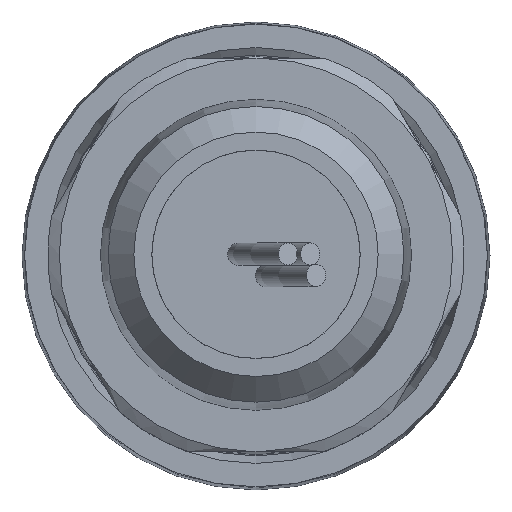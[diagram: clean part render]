
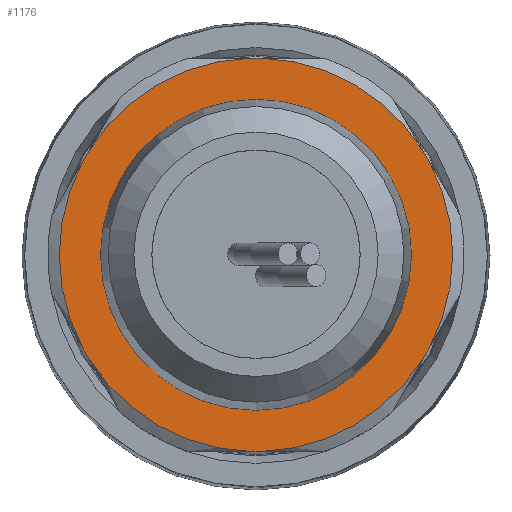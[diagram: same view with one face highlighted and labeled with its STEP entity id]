
A CAD part, top view. The second image highlights one B-rep face of the part: STEP entity #1176.
In plain terms, the highlighted planar face has unit normal (0, 0, 1).
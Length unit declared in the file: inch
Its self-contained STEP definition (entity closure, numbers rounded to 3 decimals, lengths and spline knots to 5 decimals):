
#1 = DIRECTION ( 'NONE',  ( 1., 0., 0. ) ) ;
#15 = ORIENTED_EDGE ( 'NONE', *, *, #1158, .T. ) ;
#56 = VERTEX_POINT ( 'NONE', #1165 ) ;
#88 = ORIENTED_EDGE ( 'NONE', *, *, #288, .F. ) ;
#91 = CIRCLE ( 'NONE', #1272, 0.53125 ) ;
#95 = AXIS2_PLACEMENT_3D ( 'NONE', #526, #1363, #1246 ) ;
#129 = DIRECTION ( 'NONE',  ( 0., 0., -1. ) ) ;
#153 = EDGE_CURVE ( 'NONE', #2113, #1534, #2115, .T. ) ;
#166 = CARTESIAN_POINT ( 'NONE',  ( 0.46801, -0.25139, 3.03832 ) ) ;
#173 = LINE ( 'NONE', #1549, #1653 ) ;
#193 = LINE ( 'NONE', #366, #851 ) ;
#214 = EDGE_CURVE ( 'NONE', #56, #773, #1038, .T. ) ;
#229 = ORIENTED_EDGE ( 'NONE', *, *, #971, .T. ) ;
#233 = CARTESIAN_POINT ( 'NONE',  ( -0.0163, -0.531, 3.03832 ) ) ;
#249 = CARTESIAN_POINT ( 'NONE',  ( 0., 0.42, 3.03832 ) ) ;
#288 = EDGE_CURVE ( 'NONE', #1709, #996, #91, .T. ) ;
#289 = LINE ( 'NONE', #1319, #1472 ) ;
#298 = CARTESIAN_POINT ( 'NONE',  ( -0.0163, 0.531, 3.03832 ) ) ;
#309 = ORIENTED_EDGE ( 'NONE', *, *, #945, .F. ) ;
#322 = CARTESIAN_POINT ( 'NONE',  ( -0.61315, 0., 3.03832 ) ) ;
#325 = CARTESIAN_POINT ( 'NONE',  ( 0.45171, -0.27961, 3.03832 ) ) ;
#346 = FACE_BOUND ( 'NONE', #1423, .T. ) ;
#366 = CARTESIAN_POINT ( 'NONE',  ( -0.30657, 0.531, 3.03832 ) ) ;
#387 = EDGE_LOOP ( 'NONE', ( #2105, #1339, #229, #454, #15, #88, #1592, #1815, #1937, #309, #625, #1746 ) ) ;
#389 = DIRECTION ( 'NONE',  ( 0., 1., 0. ) ) ;
#401 = EDGE_CURVE ( 'NONE', #447, #1910, #1249, .T. ) ;
#412 = CIRCLE ( 'NONE', #95, 0.53125 ) ;
#424 = VERTEX_POINT ( 'NONE', #1579 ) ;
#447 = VERTEX_POINT ( 'NONE', #753 ) ;
#454 = ORIENTED_EDGE ( 'NONE', *, *, #401, .F. ) ;
#482 = DIRECTION ( 'NONE',  ( 0., 1., 0. ) ) ;
#500 = CARTESIAN_POINT ( 'NONE',  ( 0., 0., 3.03832 ) ) ;
#516 = CARTESIAN_POINT ( 'NONE',  ( 0., 0., 3.03832 ) ) ;
#526 = CARTESIAN_POINT ( 'NONE',  ( 0., 0., 3.03832 ) ) ;
#539 = CARTESIAN_POINT ( 'NONE',  ( 0.46801, 0.25139, 3.03832 ) ) ;
#548 = DIRECTION ( 'NONE',  ( 0., 1., 0. ) ) ;
#567 = VERTEX_POINT ( 'NONE', #1174 ) ;
#569 = CARTESIAN_POINT ( 'NONE',  ( 0., 0., 3.03832 ) ) ;
#581 = CARTESIAN_POINT ( 'NONE',  ( -0.45171, 0.27961, 3.03832 ) ) ;
#625 = ORIENTED_EDGE ( 'NONE', *, *, #1602, .T. ) ;
#652 = CARTESIAN_POINT ( 'NONE',  ( -0.30657, -0.531, 3.03832 ) ) ;
#654 = DIRECTION ( 'NONE',  ( 0., 0., -1. ) ) ;
#676 = AXIS2_PLACEMENT_3D ( 'NONE', #1098, #1263, #2083 ) ;
#707 = PLANE ( 'NONE',  #1303 ) ;
#748 = EDGE_CURVE ( 'NONE', #1440, #1534, #412, .T. ) ;
#753 = CARTESIAN_POINT ( 'NONE',  ( 0.0163, 0.531, 3.03832 ) ) ;
#756 = AXIS2_PLACEMENT_3D ( 'NONE', #569, #795, #389 ) ;
#758 = CIRCLE ( 'NONE', #676, 0.53125 ) ;
#773 = VERTEX_POINT ( 'NONE', #2051 ) ;
#777 = VECTOR ( 'NONE', #2179, 39.37008 ) ;
#795 = DIRECTION ( 'NONE',  ( 0., 0., -1. ) ) ;
#801 = DIRECTION ( 'NONE',  ( 0.5, 0.866, 0. ) ) ;
#826 = ORIENTED_EDGE ( 'NONE', *, *, #2107, .T. ) ;
#837 = DIRECTION ( 'NONE',  ( 0., 1., 0. ) ) ;
#851 = VECTOR ( 'NONE', #866, 39.37008 ) ;
#866 = DIRECTION ( 'NONE',  ( -0.5, -0.866, 0. ) ) ;
#932 = CIRCLE ( 'NONE', #1688, 0.53125 ) ;
#945 = EDGE_CURVE ( 'NONE', #1766, #773, #932, .T. ) ;
#960 = CIRCLE ( 'NONE', #1934, 0.42 ) ;
#971 = EDGE_CURVE ( 'NONE', #1440, #1910, #289, .T. ) ;
#973 = DIRECTION ( 'NONE',  ( -0.5, 0.866, 0. ) ) ;
#996 = VERTEX_POINT ( 'NONE', #298 ) ;
#1038 = LINE ( 'NONE', #322, #777 ) ;
#1054 = CARTESIAN_POINT ( 'NONE',  ( 0.53125, 0., 3.03832 ) ) ;
#1098 = CARTESIAN_POINT ( 'NONE',  ( 0., 0., 3.03832 ) ) ;
#1112 = EDGE_CURVE ( 'NONE', #1709, #567, #193, .T. ) ;
#1151 = DIRECTION ( 'NONE',  ( 0., 1., 0. ) ) ;
#1158 = EDGE_CURVE ( 'NONE', #447, #996, #173, .T. ) ;
#1165 = CARTESIAN_POINT ( 'NONE',  ( -0.46801, -0.25139, 3.03832 ) ) ;
#1174 = CARTESIAN_POINT ( 'NONE',  ( -0.46801, 0.25139, 3.03832 ) ) ;
#1176 = ADVANCED_FACE ( 'NONE', ( #346, #1535 ), #707, .F. ) ;
#1179 = LINE ( 'NONE', #652, #2178 ) ;
#1197 = DIRECTION ( 'NONE',  ( 0., 1., 0. ) ) ;
#1246 = DIRECTION ( 'NONE',  ( 0., 1., 0. ) ) ;
#1249 = CIRCLE ( 'NONE', #756, 0.53125 ) ;
#1263 = DIRECTION ( 'NONE',  ( 0., 0., -1. ) ) ;
#1272 = AXIS2_PLACEMENT_3D ( 'NONE', #516, #1355, #1197 ) ;
#1303 = AXIS2_PLACEMENT_3D ( 'NONE', #1054, #1713, #548 ) ;
#1319 = CARTESIAN_POINT ( 'NONE',  ( 0.61315, 0., 3.03832 ) ) ;
#1339 = ORIENTED_EDGE ( 'NONE', *, *, #748, .F. ) ;
#1355 = DIRECTION ( 'NONE',  ( 0., 0., -1. ) ) ;
#1363 = DIRECTION ( 'NONE',  ( 0., 0., -1. ) ) ;
#1423 = EDGE_LOOP ( 'NONE', ( #826 ) ) ;
#1440 = VERTEX_POINT ( 'NONE', #539 ) ;
#1469 = VECTOR ( 'NONE', #801, 39.37008 ) ;
#1472 = VECTOR ( 'NONE', #973, 39.37008 ) ;
#1477 = CIRCLE ( 'NONE', #1727, 0.53125 ) ;
#1479 = CARTESIAN_POINT ( 'NONE',  ( 0., 0., 3.03832 ) ) ;
#1492 = DIRECTION ( 'NONE',  ( 0., 0., -1. ) ) ;
#1534 = VERTEX_POINT ( 'NONE', #166 ) ;
#1535 = FACE_OUTER_BOUND ( 'NONE', #387, .T. ) ;
#1549 = CARTESIAN_POINT ( 'NONE',  ( 0.30657, 0.531, 3.03832 ) ) ;
#1574 = CARTESIAN_POINT ( 'NONE',  ( 0.45171, 0.27961, 3.03832 ) ) ;
#1579 = CARTESIAN_POINT ( 'NONE',  ( 0.0163, -0.531, 3.03832 ) ) ;
#1587 = EDGE_CURVE ( 'NONE', #56, #567, #1477, .T. ) ;
#1592 = ORIENTED_EDGE ( 'NONE', *, *, #1112, .T. ) ;
#1602 = EDGE_CURVE ( 'NONE', #1766, #424, #1179, .T. ) ;
#1653 = VECTOR ( 'NONE', #1848, 39.37008 ) ;
#1677 = CARTESIAN_POINT ( 'NONE',  ( 0., 0., 3.03832 ) ) ;
#1688 = AXIS2_PLACEMENT_3D ( 'NONE', #500, #1492, #1151 ) ;
#1709 = VERTEX_POINT ( 'NONE', #581 ) ;
#1713 = DIRECTION ( 'NONE',  ( 0., 0., -1. ) ) ;
#1727 = AXIS2_PLACEMENT_3D ( 'NONE', #1677, #129, #837 ) ;
#1746 = ORIENTED_EDGE ( 'NONE', *, *, #1917, .F. ) ;
#1765 = VERTEX_POINT ( 'NONE', #249 ) ;
#1766 = VERTEX_POINT ( 'NONE', #233 ) ;
#1815 = ORIENTED_EDGE ( 'NONE', *, *, #1587, .F. ) ;
#1848 = DIRECTION ( 'NONE',  ( -1., 0., 0. ) ) ;
#1910 = VERTEX_POINT ( 'NONE', #1574 ) ;
#1917 = EDGE_CURVE ( 'NONE', #2113, #424, #758, .T. ) ;
#1934 = AXIS2_PLACEMENT_3D ( 'NONE', #1479, #654, #482 ) ;
#1937 = ORIENTED_EDGE ( 'NONE', *, *, #214, .T. ) ;
#2051 = CARTESIAN_POINT ( 'NONE',  ( -0.45171, -0.27961, 3.03832 ) ) ;
#2083 = DIRECTION ( 'NONE',  ( 0., 1., 0. ) ) ;
#2105 = ORIENTED_EDGE ( 'NONE', *, *, #153, .T. ) ;
#2107 = EDGE_CURVE ( 'NONE', #1765, #1765, #960, .T. ) ;
#2113 = VERTEX_POINT ( 'NONE', #325 ) ;
#2115 = LINE ( 'NONE', #2158, #1469 ) ;
#2158 = CARTESIAN_POINT ( 'NONE',  ( 0.30657, -0.531, 3.03832 ) ) ;
#2178 = VECTOR ( 'NONE', #1, 39.37008 ) ;
#2179 = DIRECTION ( 'NONE',  ( 0.5, -0.866, 0. ) ) ;
